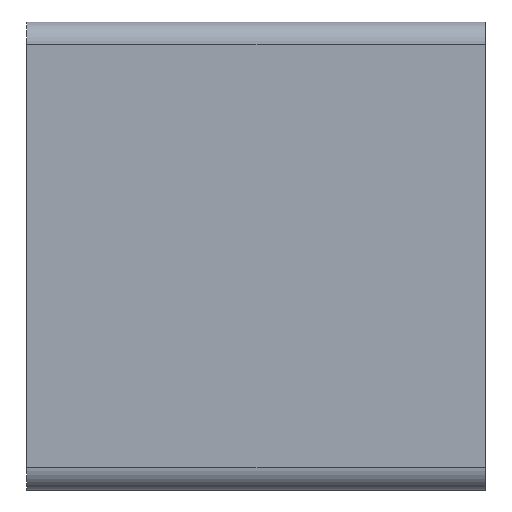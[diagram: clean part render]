
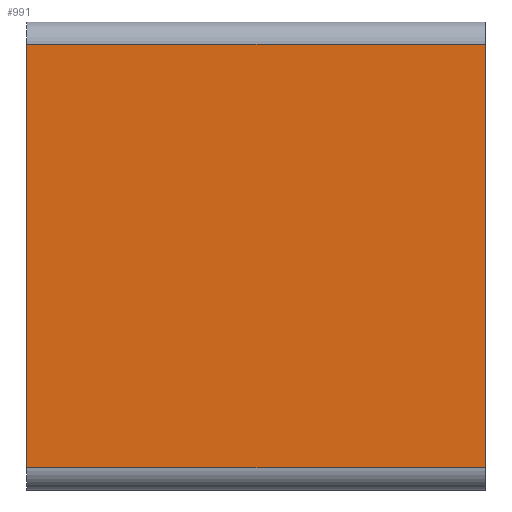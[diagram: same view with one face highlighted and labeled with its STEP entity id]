
A CAD part, left-side view. The second image highlights one B-rep face of the part: STEP entity #991.
In plain terms, the highlighted planar face has unit normal (-1, 0, 0).
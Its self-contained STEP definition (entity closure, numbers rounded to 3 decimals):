
#77=FACE_OUTER_BOUND('',#135,.T.);
#135=EDGE_LOOP('',(#807,#808,#809,#810));
#196=LINE('',#1553,#292);
#207=LINE('',#1597,#303);
#211=LINE('',#1607,#307);
#222=LINE('',#1642,#318);
#292=VECTOR('',#1245,10.);
#303=VECTOR('',#1284,10.);
#307=VECTOR('',#1294,10.);
#318=VECTOR('',#1329,10.);
#439=VERTEX_POINT('',#1550);
#440=VERTEX_POINT('',#1552);
#459=VERTEX_POINT('',#1596);
#462=VERTEX_POINT('',#1606);
#550=EDGE_CURVE('',#439,#440,#196,.F.);
#571=EDGE_CURVE('',#440,#459,#207,.T.);
#576=EDGE_CURVE('',#459,#462,#211,.F.);
#594=EDGE_CURVE('',#462,#439,#222,.T.);
#807=ORIENTED_EDGE('',*,*,#571,.F.);
#808=ORIENTED_EDGE('',*,*,#550,.F.);
#809=ORIENTED_EDGE('',*,*,#594,.F.);
#810=ORIENTED_EDGE('',*,*,#576,.F.);
#948=PLANE('',#1097);
#991=ADVANCED_FACE('',(#77),#948,.T.);
#1097=AXIS2_PLACEMENT_3D('',#1643,#1330,#1331);
#1245=DIRECTION('',(0.,0.,1.));
#1284=DIRECTION('',(0.,1.,0.));
#1294=DIRECTION('',(0.,0.,-1.));
#1329=DIRECTION('',(0.,-1.,0.));
#1330=DIRECTION('center_axis',(-1.,0.,0.));
#1331=DIRECTION('ref_axis',(0.,0.,1.));
#1550=CARTESIAN_POINT('',(-20.4,-0.4,9.4));
#1552=CARTESIAN_POINT('',(-20.4,-0.4,-9.4));
#1553=CARTESIAN_POINT('',(-20.4,-0.4,-5.5));
#1596=CARTESIAN_POINT('',(-20.4,20.,-9.4));
#1597=CARTESIAN_POINT('',(-20.4,0.,-9.4));
#1606=CARTESIAN_POINT('',(-20.4,20.,9.4));
#1607=CARTESIAN_POINT('',(-20.4,20.,-5.5));
#1642=CARTESIAN_POINT('',(-20.4,0.,9.4));
#1643=CARTESIAN_POINT('Origin',(-20.4,0.,-11.));
